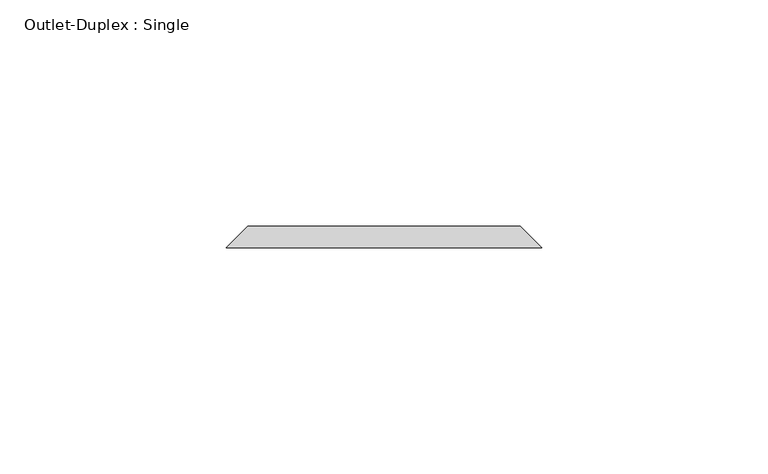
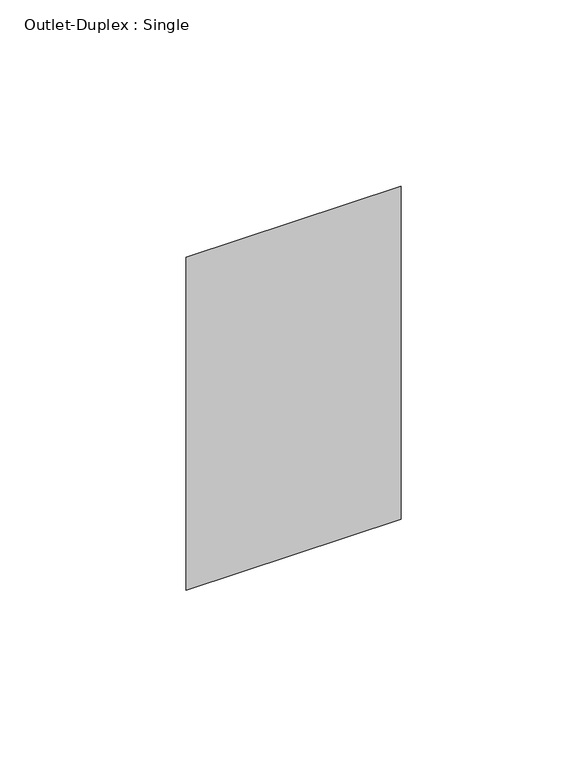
"""IFC4 building model written with IfcOpenShell, lengths in millimetres: proxy geometry, Outlet-Duplex : Single."""

from ifc_helpers import new_model, si_unit, origin, place, context, project, spatial, faceted_brep, source, transform, mapped, element, save


def outlet_duplex_single_3b77d616(model_context):
    return source(origin(), model_context, "Body", "Brep", [
        faceted_brep([(-30.1625, 131.7625, 357.1875), (30.1625, 131.7625, 357.1875), (30.1625, 131.7625, 252.4125), (-30.1625, 131.7625, 252.4125), (-34.925, 127.0, 361.95), (-34.925, 127.0, 247.65), (34.925, 127.0, 247.65), (34.925, 127.0, 361.95)], [[[0, 1, 2, 3]], [[4, 5, 6, 7]], [[4, 7, 1, 0]], [[7, 6, 2, 1]], [[6, 5, 3, 2]], [[5, 4, 0, 3]]]),
    ])


if __name__ == "__main__":
    model = new_model("IFC4")
    model_context = context("Model", 3, world=origin())
    ifc_project = project(units=[si_unit("LENGTHUNIT", "METRE", prefix="MILLI")], contexts=[model_context])
    site = spatial("IfcSite", under=ifc_project)
    building = spatial("IfcBuilding", under=site)
    placement = place(None, origin())
    outlet_duplex_single_shape = outlet_duplex_single_3b77d616(model_context)
    element("IfcBuildingElementProxy", 1, Name="Outlet-Duplex : Single", ObjectType="Outlet-Duplex : Single", at=placement, inside=building, context=model_context, shape_type="MappedRepresentation", body=[
        mapped(outlet_duplex_single_shape, transform((0.0, 0.0, 0.0), x_axis=(1.0, 0.0, 0.0), y_axis=(0.0, 1.0, 0.0), z_axis=(0.0, 0.0, 1.0))),
    ])
    save(model, "model.ifc")
